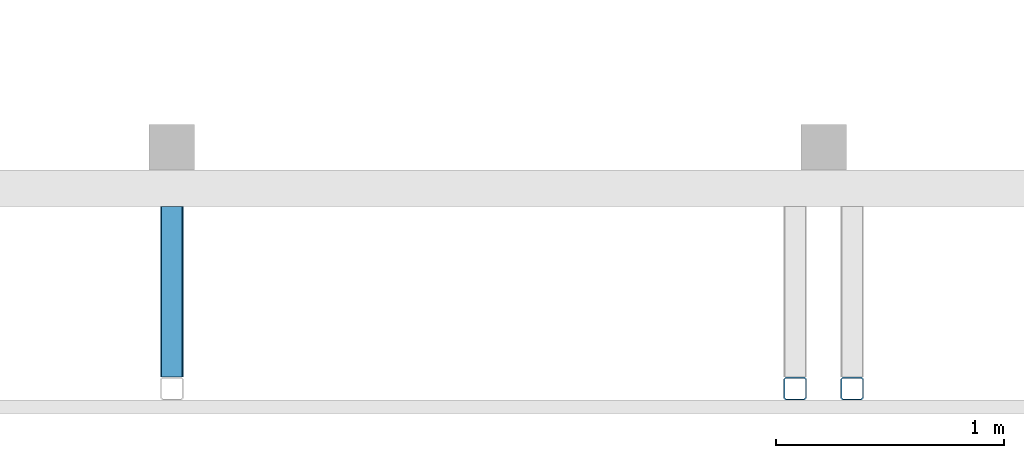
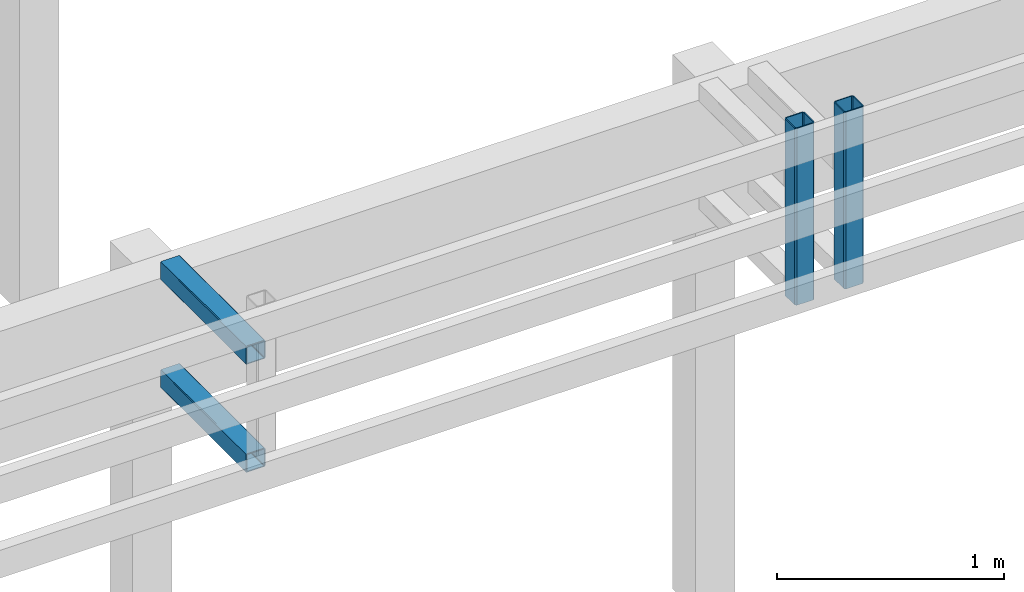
# One storey, part 25 of 42: 4 members.
"""IFC4 building model written with IfcOpenShell, lengths in metres."""

from ifc_helpers import new_model, entity, si_unit, converted_unit, derived_unit, frame, origin, place, context, subcontext, project, spatial, faceted_brep, material, element, save


model = new_model("IFC4")

# Units and contexts
model_context = context("Model", 3, precision=1e-05, world=origin())
plan_context = context("Plan", 2, precision=1e-05, world=origin())
body_context = subcontext(model_context, "Body", "Model", "MODEL_VIEW")
ifc_project = project(units=[si_unit("LENGTHUNIT", "METRE"), si_unit("AREAUNIT", "SQUARE_METRE"), si_unit("VOLUMEUNIT", "CUBIC_METRE"), si_unit("MASSUNIT", "GRAM", prefix="KILO"), converted_unit("PLANEANGLEUNIT", "DEGREE", entity("IfcPlaneAngleMeasure", 0.0174532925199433), si_unit("PLANEANGLEUNIT", "RADIAN"), dimensions=[0, 0, 0, 0, 0, 0, 0]), derived_unit("THERMALTRANSMITTANCEUNIT", [(si_unit("POWERUNIT", "WATT"), 1), (si_unit("THERMODYNAMICTEMPERATUREUNIT", "KELVIN"), -1), (si_unit("LENGTHUNIT", "METRE"), -2)]), derived_unit("VOLUMETRICFLOWRATEUNIT", [(si_unit("LENGTHUNIT", "METRE"), 3), (converted_unit("TIMEUNIT", "hour", entity("IfcTimeMeasure", 3600.0), si_unit("TIMEUNIT", "SECOND"), dimensions=[0, 0, 1, 0, 0, 0, 0]), -1), (si_unit("LENGTHUNIT", "METRE"), -1)])], contexts=[model_context, plan_context])

# Site, building, storey
site_placement = place(None, origin())
site = spatial("IfcSite", under=ifc_project, at=site_placement, Name="Site", CompositionType="ELEMENT")
building_placement = place(site_placement, origin())
building = spatial("IfcBuilding", under=site, at=building_placement, Name="Admin", CompositionType="ELEMENT")
storey_placement = place(building_placement, frame((0.0, 0.0, 6.61)))
storey = spatial("IfcBuildingStorey", under=building, at=storey_placement, Name="02-Etage2", CompositionType="ELEMENT", Elevation=6.61)

# Members
ifc_material_1 = material(Name="S235")
member_1_placement = place(storey_placement, frame((52.3748010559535, 11.0194493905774, 2.28)))
element("IfcMember", 1, at=member_1_placement, inside=storey, material=ifc_material_1, Name="Bandeau R+2", context=body_context, shape_type="Brep", body=[
    faceted_brep([(0.01, 0.095, 0.0), (0.01, 0.095, 0.95), (0.09, 0.095, 0.95), (0.09, 0.095, 0.0), (0.005, 0.09, 0.0), (0.005, 0.09, 0.95), (0.005, 0.01, 0.0), (0.005, 0.01, 0.95), (0.01, 0.005, 0.0), (0.01, 0.005, 0.95), (0.09, 0.005, 0.0), (0.09, 0.005, 0.95), (0.095, 0.01, 0.0), (0.095, 0.01, 0.95), (0.095, 0.09, 0.0), (0.095, 0.09, 0.95), (0.1, 0.0925, 0.0), (0.1, 0.0925, 0.95), (0.0925, 0.1, 0.95), (0.0925, 0.1, 0.0), (0.1, 0.0075, 0.0), (0.1, 0.0075, 0.95), (0.0925, 0.0, 0.0), (0.0925, 0.0, 0.95), (0.0075, 0.0, 0.0), (0.0075, 0.0, 0.95), (0.0, 0.0075, 0.0), (0.0, 0.0075, 0.95), (0.0, 0.0925, 0.0), (0.0, 0.0925, 0.95), (0.0075, 0.1, 0.0), (0.0075, 0.1, 0.95)], [[[0, 1, 2, 3]], [[4, 5, 1, 0]], [[6, 7, 5, 4]], [[8, 9, 7, 6]], [[10, 11, 9, 8]], [[12, 13, 11, 10]], [[14, 15, 13, 12]], [[3, 2, 15, 14]], [[16, 17, 18, 19]], [[20, 21, 17, 16]], [[22, 23, 21, 20]], [[24, 25, 23, 22]], [[26, 27, 25, 24]], [[28, 29, 27, 26]], [[30, 31, 29, 28]], [[19, 18, 31, 30]], [[18, 17, 21, 23, 25, 27, 29, 31], [2, 1, 5, 7, 9, 11, 13, 15]], [[19, 30, 28, 26, 24, 22, 20, 16], [3, 14, 12, 10, 8, 6, 4, 0]]], orient=[[False], [False], [False], [False], [False], [False], [False], [False], [False], [False], [False], [False], [False], [False], [False], [False], [False, False], [False, False]]),
])
ifc_material_2 = material(Name="S235")
member_2_placement = place(storey_placement, frame((52.6248010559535, 11.0194493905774, 2.28)))
element("IfcMember", 2, at=member_2_placement, inside=storey, material=ifc_material_2, Name="Bandeau R+2", context=body_context, shape_type="Brep", body=[
    faceted_brep([(0.01, 0.095, 0.0), (0.01, 0.095, 0.95), (0.09, 0.095, 0.95), (0.09, 0.095, 0.0), (0.005, 0.09, 0.0), (0.005, 0.09, 0.95), (0.005, 0.01, 0.0), (0.005, 0.01, 0.95), (0.01, 0.005, 0.0), (0.01, 0.005, 0.95), (0.09, 0.005, 0.0), (0.09, 0.005, 0.95), (0.095, 0.01, 0.0), (0.095, 0.01, 0.95), (0.095, 0.09, 0.0), (0.095, 0.09, 0.95), (0.1, 0.0925, 0.0), (0.1, 0.0925, 0.95), (0.0925, 0.1, 0.95), (0.0925, 0.1, 0.0), (0.1, 0.0075, 0.0), (0.1, 0.0075, 0.95), (0.0925, 0.0, 0.0), (0.0925, 0.0, 0.95), (0.0075, 0.0, 0.0), (0.0075, 0.0, 0.95), (0.0, 0.0075, 0.0), (0.0, 0.0075, 0.95), (0.0, 0.0925, 0.0), (0.0, 0.0925, 0.95), (0.0075, 0.1, 0.0), (0.0075, 0.1, 0.95)], [[[0, 1, 2, 3]], [[4, 5, 1, 0]], [[6, 7, 5, 4]], [[8, 9, 7, 6]], [[10, 11, 9, 8]], [[12, 13, 11, 10]], [[14, 15, 13, 12]], [[3, 2, 15, 14]], [[16, 17, 18, 19]], [[20, 21, 17, 16]], [[22, 23, 21, 20]], [[24, 25, 23, 22]], [[26, 27, 25, 24]], [[28, 29, 27, 26]], [[30, 31, 29, 28]], [[19, 18, 31, 30]], [[18, 17, 21, 23, 25, 27, 29, 31], [2, 1, 5, 7, 9, 11, 13, 15]], [[19, 30, 28, 26, 24, 22, 20, 16], [3, 14, 12, 10, 8, 6, 4, 0]]], orient=[[False], [False], [False], [False], [False], [False], [False], [False], [False], [False], [False], [False], [False], [False], [False], [False], [False, False], [False, False]]),
])
ifc_material_3 = material(Name="S235")
member_3_placement = place(storey_placement, frame((49.6398010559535, 11.1194493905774, 2.86)))
element("IfcMember", 3, at=member_3_placement, inside=storey, material=ifc_material_3, Name="Bandeau R+2", context=body_context, shape_type="Brep", body=[
    faceted_brep([(0.0950000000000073, 0.0, 0.09), (0.0950000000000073, 0.0, 0.01), (0.0950000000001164, 0.74999999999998, 0.01), (0.0950000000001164, 0.74999999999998, 0.09), (0.0949240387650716, 0.0, 0.0908682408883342), (0.0949240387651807, 0.74999999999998, 0.0908682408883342), (0.0946984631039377, 0.0, 0.0917101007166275), (0.0946984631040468, 0.74999999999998, 0.0917101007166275), (0.0943301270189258, 0.0, 0.0925), (0.094330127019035, 0.74999999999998, 0.0925), (0.0938302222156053, 0.0, 0.0932139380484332), (0.0938302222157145, 0.74999999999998, 0.0932139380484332), (0.0932139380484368, 1.81898940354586e-15, 0.0938302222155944), (0.093213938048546, 0.749999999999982, 0.0938302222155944), (0.0925000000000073, 1.81898940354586e-15, 0.0943301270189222), (0.0925000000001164, 0.749999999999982, 0.0943301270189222), (0.0917101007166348, 1.81898940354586e-15, 0.0946984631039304), (0.0917101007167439, 0.749999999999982, 0.0946984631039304), (0.0908682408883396, 1.81898940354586e-15, 0.0949240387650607), (0.0908682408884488, 0.749999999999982, 0.0949240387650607), (0.0900000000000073, 1.81898940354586e-15, 0.095), (0.0900000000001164, 0.749999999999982, 0.095), (0.0100000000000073, 1.2732925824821e-14, 0.095), (0.0100000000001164, 0.749999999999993, 0.095), (0.00913175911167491, 1.2732925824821e-14, 0.0949240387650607), (0.00913175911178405, 0.749999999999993, 0.0949240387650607), (0.00828989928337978, 1.2732925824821e-14, 0.0946984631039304), (0.00828989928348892, 0.749999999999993, 0.0946984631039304), (0.00750000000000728, 1.2732925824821e-14, 0.0943301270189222), (0.00750000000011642, 0.749999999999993, 0.0943301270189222), (0.00678606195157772, 1.2732925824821e-14, 0.0938302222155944), (0.00678606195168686, 0.749999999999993, 0.0938302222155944), (0.00616977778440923, 1.45519152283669e-14, 0.0932139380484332), (0.00616977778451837, 0.749999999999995, 0.0932139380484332), (0.0056698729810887, 1.45519152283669e-14, 0.0925), (0.00566987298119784, 0.749999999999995, 0.0925), (0.00530153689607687, 1.45519152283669e-14, 0.0917101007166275), (0.00530153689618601, 0.749999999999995, 0.0917101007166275), (0.00507596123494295, 1.45519152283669e-14, 0.0908682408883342), (0.00507596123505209, 0.749999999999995, 0.0908682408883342), (0.00500000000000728, 1.45519152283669e-14, 0.09), (0.00500000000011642, 0.749999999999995, 0.09), (0.00500000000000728, 1.45519152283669e-14, 0.01), (0.00500000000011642, 0.749999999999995, 0.01), (0.00507596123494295, 1.45519152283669e-14, 0.00913175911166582), (0.00507596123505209, 0.749999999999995, 0.00913175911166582), (0.00530153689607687, 1.45519152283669e-14, 0.00828989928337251), (0.00530153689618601, 0.749999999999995, 0.00828989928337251), (0.0056698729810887, 1.45519152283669e-14, 0.0075), (0.00566987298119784, 0.749999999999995, 0.0075), (0.00616977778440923, 1.45519152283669e-14, 0.00678606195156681), (0.00616977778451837, 0.749999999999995, 0.00678606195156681), (0.00678606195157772, 1.2732925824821e-14, 0.0061697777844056), (0.00678606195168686, 0.749999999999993, 0.0061697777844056), (0.00750000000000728, 1.2732925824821e-14, 0.00566987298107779), (0.00750000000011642, 0.749999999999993, 0.00566987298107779), (0.00828989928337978, 1.2732925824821e-14, 0.00530153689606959), (0.00828989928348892, 0.749999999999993, 0.00530153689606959), (0.00913175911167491, 1.2732925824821e-14, 0.00507596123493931), (0.00913175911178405, 0.749999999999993, 0.00507596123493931), (0.0100000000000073, 1.2732925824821e-14, 0.005), (0.0100000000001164, 0.749999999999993, 0.005), (0.0900000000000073, 1.81898940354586e-15, 0.005), (0.0900000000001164, 0.749999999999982, 0.005), (0.0908682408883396, 1.81898940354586e-15, 0.00507596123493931), (0.0908682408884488, 0.749999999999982, 0.00507596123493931), (0.0917101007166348, 1.81898940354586e-15, 0.00530153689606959), (0.0917101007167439, 0.749999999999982, 0.00530153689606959), (0.0925000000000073, 1.81898940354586e-15, 0.00566987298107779), (0.0925000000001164, 0.749999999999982, 0.00566987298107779), (0.0932139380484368, 1.81898940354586e-15, 0.0061697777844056), (0.093213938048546, 0.749999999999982, 0.0061697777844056), (0.0938302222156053, 0.0, 0.00678606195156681), (0.0938302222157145, 0.74999999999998, 0.00678606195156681), (0.0943301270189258, 0.0, 0.0075), (0.094330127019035, 0.74999999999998, 0.0075), (0.0946984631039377, 0.0, 0.00828989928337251), (0.0946984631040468, 0.74999999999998, 0.00828989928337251), (0.0949240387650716, 0.0, 0.00913175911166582), (0.0949240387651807, 0.74999999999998, 0.00913175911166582), (0.00750000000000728, 1.2732925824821e-14, 0.1), (0.00619763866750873, 1.45519152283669e-14, 0.099886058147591), (0.00619763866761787, 0.749999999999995, 0.099886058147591), (0.00750000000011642, 0.749999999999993, 0.1), (0.0925000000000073, 1.81898940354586e-15, 0.1), (0.0925000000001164, 0.749999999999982, 0.1), (0.0938023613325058, 0.0, 0.099886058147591), (0.093802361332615, 0.74999999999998, 0.099886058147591), (0.0950651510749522, 0.0, 0.0995476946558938), (0.0950651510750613, 0.74999999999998, 0.0995476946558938), (0.0962500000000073, 0.0, 0.0989951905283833), (0.0962500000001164, 0.74999999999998, 0.0989951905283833), (0.0973209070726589, 0.0, 0.0982453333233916), (0.097320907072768, 0.74999999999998, 0.0982453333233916), (0.0982453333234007, 0.0, 0.0973209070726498), (0.0982453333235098, 0.74999999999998, 0.0973209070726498), (0.0989951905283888, 0.0, 0.09625), (0.0989951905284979, 0.74999999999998, 0.09625), (0.0995476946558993, 0.0, 0.0950651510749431), (0.0995476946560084, 0.74999999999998, 0.0950651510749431), (0.0998860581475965, 0.0, 0.0938023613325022), (0.0998860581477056, 0.74999999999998, 0.0938023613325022), (0.100000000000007, 0.0, 0.0925), (0.100000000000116, 0.74999999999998, 0.0925), (0.0998860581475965, 0.0, 0.00619763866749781), (0.100000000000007, 0.0, 0.0075), (0.100000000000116, 0.74999999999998, 0.0075), (0.0998860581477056, 0.74999999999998, 0.00619763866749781), (0.0995476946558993, 0.0, 0.00493484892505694), (0.0995476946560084, 0.74999999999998, 0.00493484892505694), (0.0989951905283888, 0.0, 0.00375), (0.0989951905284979, 0.74999999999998, 0.00375), (0.0982453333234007, 0.0, 0.00267909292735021), (0.0982453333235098, 0.74999999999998, 0.00267909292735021), (0.0973209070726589, 0.0, 0.00175466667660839), (0.097320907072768, 0.74999999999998, 0.00175466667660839), (0.0962500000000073, 0.0, 0.00100480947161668), (0.0962500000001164, 0.74999999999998, 0.00100480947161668), (0.0950651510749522, 0.0, 0.000452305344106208), (0.0950651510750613, 0.74999999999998, 0.000452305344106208), (0.0938023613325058, 0.0, 0.000113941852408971), (0.093802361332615, 0.74999999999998, 0.000113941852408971), (0.0925000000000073, 1.81898940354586e-15, 0.0), (0.0925000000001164, 0.749999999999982, 0.0), (0.00750000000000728, 1.2732925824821e-14, 0.0), (0.00750000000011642, 0.749999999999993, 0.0), (0.00619763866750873, 1.45519152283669e-14, 0.000113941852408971), (0.00619763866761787, 0.749999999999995, 0.000113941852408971), (0.0049348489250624, 1.45519152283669e-14, 0.000452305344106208), (0.00493484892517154, 0.749999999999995, 0.000452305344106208), (0.00375000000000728, 1.45519152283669e-14, 0.00100480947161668), (0.00375000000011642, 0.749999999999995, 0.00100480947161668), (0.00267909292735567, 1.45519152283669e-14, 0.00175466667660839), (0.00267909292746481, 0.749999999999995, 0.00175466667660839), (0.00175466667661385, 1.45519152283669e-14, 0.00267909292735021), (0.00175466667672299, 0.749999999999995, 0.00267909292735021), (0.00100480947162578, 1.45519152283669e-14, 0.00375), (0.00100480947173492, 0.749999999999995, 0.00375), (0.000452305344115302, 1.45519152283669e-14, 0.00493484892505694), (0.000452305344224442, 0.749999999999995, 0.00493484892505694), (0.000113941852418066, 1.45519152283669e-14, 0.00619763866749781), (0.000113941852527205, 0.749999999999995, 0.00619763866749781), (7.27595761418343e-15, 0.0, 0.0075), (1.16415321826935e-13, 0.749999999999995, 0.0075), (0.000113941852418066, 1.45519152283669e-14, 0.0938023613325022), (7.27595761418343e-15, 0.0, 0.0925), (1.16415321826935e-13, 0.749999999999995, 0.0925), (0.000113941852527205, 0.749999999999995, 0.0938023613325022), (0.000452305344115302, 1.45519152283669e-14, 0.0950651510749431), (0.000452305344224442, 0.749999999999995, 0.0950651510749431), (0.00100480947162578, 1.45519152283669e-14, 0.09625), (0.00100480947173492, 0.749999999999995, 0.09625), (0.00175466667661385, 1.45519152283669e-14, 0.0973209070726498), (0.00175466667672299, 0.749999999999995, 0.0973209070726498), (0.00267909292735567, 1.45519152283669e-14, 0.0982453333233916), (0.00267909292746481, 0.749999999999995, 0.0982453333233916), (0.00375000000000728, 1.45519152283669e-14, 0.0989951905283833), (0.00375000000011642, 0.749999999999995, 0.0989951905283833), (0.0049348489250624, 1.45519152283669e-14, 0.0995476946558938), (0.00493484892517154, 0.749999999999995, 0.0995476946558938)], [[[0, 1, 2, 3]], [[4, 0, 3, 5]], [[6, 4, 5, 7]], [[8, 6, 7, 9]], [[10, 8, 9, 11]], [[12, 10, 11, 13]], [[14, 12, 13, 15]], [[16, 14, 15, 17]], [[18, 16, 17, 19]], [[20, 18, 19, 21]], [[22, 20, 21, 23]], [[24, 22, 23, 25]], [[26, 24, 25, 27]], [[28, 26, 27, 29]], [[30, 28, 29, 31]], [[32, 30, 31, 33]], [[34, 32, 33, 35]], [[36, 34, 35, 37]], [[38, 36, 37, 39]], [[40, 38, 39, 41]], [[42, 40, 41, 43]], [[44, 42, 43, 45]], [[46, 44, 45, 47]], [[48, 46, 47, 49]], [[50, 48, 49, 51]], [[52, 50, 51, 53]], [[54, 52, 53, 55]], [[56, 54, 55, 57]], [[58, 56, 57, 59]], [[60, 58, 59, 61]], [[62, 60, 61, 63]], [[64, 62, 63, 65]], [[66, 64, 65, 67]], [[68, 66, 67, 69]], [[70, 68, 69, 71]], [[72, 70, 71, 73]], [[74, 72, 73, 75]], [[76, 74, 75, 77]], [[78, 76, 77, 79]], [[1, 78, 79, 2]], [[80, 81, 82, 83]], [[84, 80, 83, 85]], [[86, 84, 85, 87]], [[88, 86, 87, 89]], [[90, 88, 89, 91]], [[92, 90, 91, 93]], [[94, 92, 93, 95]], [[96, 94, 95, 97]], [[98, 96, 97, 99]], [[100, 98, 99, 101]], [[102, 100, 101, 103]], [[104, 105, 106, 107]], [[108, 104, 107, 109]], [[110, 108, 109, 111]], [[112, 110, 111, 113]], [[114, 112, 113, 115]], [[116, 114, 115, 117]], [[118, 116, 117, 119]], [[120, 118, 119, 121]], [[122, 120, 121, 123]], [[124, 122, 123, 125]], [[126, 124, 125, 127]], [[128, 126, 127, 129]], [[130, 128, 129, 131]], [[132, 130, 131, 133]], [[134, 132, 133, 135]], [[136, 134, 135, 137]], [[138, 136, 137, 139]], [[140, 138, 139, 141]], [[142, 140, 141, 143]], [[144, 145, 146, 147]], [[148, 144, 147, 149]], [[150, 148, 149, 151]], [[152, 150, 151, 153]], [[154, 152, 153, 155]], [[156, 154, 155, 157]], [[158, 156, 157, 159]], [[81, 158, 159, 82]], [[146, 143, 141, 139, 137, 135, 133, 131, 129, 127, 125, 123, 121, 119, 117, 115, 113, 111, 109, 107, 106, 103, 101, 99, 97, 95, 93, 91, 89, 87, 85, 83, 82, 159, 157, 155, 153, 151, 149, 147], [2, 79, 77, 75, 73, 71, 69, 67, 65, 63, 61, 59, 57, 55, 53, 51, 49, 47, 45, 43, 41, 39, 37, 35, 33, 31, 29, 27, 25, 23, 21, 19, 17, 15, 13, 11, 9, 7, 5, 3]], [[103, 106, 105, 102]], [[102, 105, 104, 108, 110, 112, 114, 116, 118, 120, 122, 124, 126, 128, 130, 132, 134, 136, 138, 140, 142, 145, 144, 148, 150, 152, 154, 156, 158, 81, 80, 84, 86, 88, 90, 92, 94, 96, 98, 100], [1, 0, 4, 6, 8, 10, 12, 14, 16, 18, 20, 22, 24, 26, 28, 30, 32, 34, 36, 38, 40, 42, 44, 46, 48, 50, 52, 54, 56, 58, 60, 62, 64, 66, 68, 70, 72, 74, 76, 78]], [[145, 142, 143, 146]]], orient=[[False], [False], [False], [False], [False], [False], [False], [False], [False], [False], [False], [False], [False], [False], [False], [False], [False], [False], [False], [False], [False], [False], [False], [False], [False], [False], [False], [False], [False], [False], [False], [False], [False], [False], [False], [False], [False], [False], [False], [False], [False], [False], [False], [False], [False], [False], [False], [False], [False], [False], [False], [False], [False], [False], [False], [False], [False], [False], [False], [False], [False], [False], [False], [False], [False], [False], [False], [False], [False], [False], [False], [False], [False], [False], [False], [False], [False], [False], [False, False], [False], [False, False], [False]]),
])
ifc_material_4 = material(Name="S235")
member_4_placement = place(storey_placement, frame((49.6398010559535, 11.1194493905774, 2.28)))
element("IfcMember", 4, at=member_4_placement, inside=storey, material=ifc_material_4, Name="Bandeau R+2", context=body_context, shape_type="Brep", body=[
    faceted_brep([(0.0950000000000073, 0.0, 0.09), (0.0950000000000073, 0.0, 0.01), (0.0950000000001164, 0.749999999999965, 0.01), (0.0950000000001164, 0.749999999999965, 0.09), (0.0949240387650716, 0.0, 0.0908682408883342), (0.0949240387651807, 0.749999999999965, 0.0908682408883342), (0.0946984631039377, 0.0, 0.0917101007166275), (0.0946984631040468, 0.749999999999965, 0.0917101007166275), (0.0943301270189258, 0.0, 0.0925), (0.094330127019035, 0.749999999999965, 0.0925), (0.0938302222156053, 0.0, 0.0932139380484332), (0.0938302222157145, 0.749999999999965, 0.0932139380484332), (0.0932139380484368, 1.81898940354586e-15, 0.0938302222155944), (0.093213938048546, 0.749999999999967, 0.0938302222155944), (0.0925000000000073, 1.81898940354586e-15, 0.0943301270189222), (0.0925000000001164, 0.749999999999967, 0.0943301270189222), (0.0917101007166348, 1.81898940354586e-15, 0.0946984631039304), (0.0917101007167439, 0.749999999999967, 0.0946984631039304), (0.0908682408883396, 1.81898940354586e-15, 0.0949240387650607), (0.0908682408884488, 0.749999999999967, 0.0949240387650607), (0.0900000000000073, 1.81898940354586e-15, 0.095), (0.0900000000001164, 0.749999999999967, 0.095), (0.0100000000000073, 1.2732925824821e-14, 0.095), (0.0100000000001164, 0.749999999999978, 0.095), (0.00913175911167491, 1.2732925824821e-14, 0.0949240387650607), (0.00913175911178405, 0.749999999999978, 0.0949240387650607), (0.00828989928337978, 1.2732925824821e-14, 0.0946984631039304), (0.00828989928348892, 0.749999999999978, 0.0946984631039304), (0.00750000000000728, 1.2732925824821e-14, 0.0943301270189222), (0.00750000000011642, 0.749999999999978, 0.0943301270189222), (0.00678606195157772, 1.2732925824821e-14, 0.0938302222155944), (0.00678606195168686, 0.749999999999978, 0.0938302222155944), (0.00616977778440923, 1.45519152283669e-14, 0.0932139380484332), (0.00616977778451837, 0.74999999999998, 0.0932139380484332), (0.0056698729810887, 1.45519152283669e-14, 0.0925), (0.00566987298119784, 0.74999999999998, 0.0925), (0.00530153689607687, 1.45519152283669e-14, 0.0917101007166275), (0.00530153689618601, 0.74999999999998, 0.0917101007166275), (0.00507596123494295, 1.45519152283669e-14, 0.0908682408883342), (0.00507596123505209, 0.74999999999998, 0.0908682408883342), (0.00500000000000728, 1.45519152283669e-14, 0.09), (0.00500000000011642, 0.74999999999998, 0.09), (0.00500000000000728, 1.45519152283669e-14, 0.01), (0.00500000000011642, 0.74999999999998, 0.01), (0.00507596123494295, 1.45519152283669e-14, 0.00913175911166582), (0.00507596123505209, 0.74999999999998, 0.00913175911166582), (0.00530153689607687, 1.45519152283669e-14, 0.00828989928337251), (0.00530153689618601, 0.74999999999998, 0.00828989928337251), (0.0056698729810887, 1.45519152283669e-14, 0.0075), (0.00566987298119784, 0.74999999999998, 0.0075), (0.00616977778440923, 1.45519152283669e-14, 0.00678606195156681), (0.00616977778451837, 0.74999999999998, 0.00678606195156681), (0.00678606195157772, 1.2732925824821e-14, 0.0061697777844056), (0.00678606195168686, 0.749999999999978, 0.0061697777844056), (0.00750000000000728, 1.2732925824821e-14, 0.00566987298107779), (0.00750000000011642, 0.749999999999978, 0.00566987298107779), (0.00828989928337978, 1.2732925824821e-14, 0.00530153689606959), (0.00828989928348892, 0.749999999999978, 0.00530153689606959), (0.00913175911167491, 1.2732925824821e-14, 0.00507596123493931), (0.00913175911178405, 0.749999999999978, 0.00507596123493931), (0.0100000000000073, 1.2732925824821e-14, 0.005), (0.0100000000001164, 0.749999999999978, 0.005), (0.0900000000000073, 1.81898940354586e-15, 0.005), (0.0900000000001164, 0.749999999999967, 0.005), (0.0908682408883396, 1.81898940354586e-15, 0.00507596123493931), (0.0908682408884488, 0.749999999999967, 0.00507596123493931), (0.0917101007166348, 1.81898940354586e-15, 0.00530153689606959), (0.0917101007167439, 0.749999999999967, 0.00530153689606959), (0.0925000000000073, 1.81898940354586e-15, 0.00566987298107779), (0.0925000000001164, 0.749999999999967, 0.00566987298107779), (0.0932139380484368, 1.81898940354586e-15, 0.0061697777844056), (0.093213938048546, 0.749999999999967, 0.0061697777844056), (0.0938302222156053, 0.0, 0.00678606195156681), (0.0938302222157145, 0.749999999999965, 0.00678606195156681), (0.0943301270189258, 0.0, 0.0075), (0.094330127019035, 0.749999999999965, 0.0075), (0.0946984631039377, 0.0, 0.00828989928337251), (0.0946984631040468, 0.749999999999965, 0.00828989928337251), (0.0949240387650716, 0.0, 0.00913175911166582), (0.0949240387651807, 0.749999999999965, 0.00913175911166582), (0.00750000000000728, 1.2732925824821e-14, 0.1), (0.00619763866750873, 1.45519152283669e-14, 0.099886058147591), (0.00619763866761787, 0.74999999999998, 0.099886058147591), (0.00750000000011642, 0.749999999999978, 0.1), (0.0925000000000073, 1.81898940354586e-15, 0.1), (0.0925000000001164, 0.749999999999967, 0.1), (0.0938023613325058, 0.0, 0.099886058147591), (0.093802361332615, 0.749999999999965, 0.099886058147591), (0.0950651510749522, 0.0, 0.0995476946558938), (0.0950651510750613, 0.749999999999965, 0.0995476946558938), (0.0962500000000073, 0.0, 0.0989951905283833), (0.0962500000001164, 0.749999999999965, 0.0989951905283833), (0.0973209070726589, 0.0, 0.0982453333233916), (0.097320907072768, 0.749999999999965, 0.0982453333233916), (0.0982453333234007, 0.0, 0.0973209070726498), (0.0982453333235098, 0.749999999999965, 0.0973209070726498), (0.0989951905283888, 0.0, 0.09625), (0.0989951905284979, 0.749999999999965, 0.09625), (0.0995476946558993, 0.0, 0.0950651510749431), (0.0995476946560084, 0.749999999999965, 0.0950651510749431), (0.0998860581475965, 0.0, 0.0938023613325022), (0.0998860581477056, 0.749999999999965, 0.0938023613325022), (0.100000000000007, 0.0, 0.0925), (0.100000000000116, 0.749999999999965, 0.0925), (0.0998860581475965, 0.0, 0.00619763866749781), (0.100000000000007, 0.0, 0.0075), (0.100000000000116, 0.749999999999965, 0.0075), (0.0998860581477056, 0.749999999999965, 0.00619763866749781), (0.0995476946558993, 0.0, 0.00493484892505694), (0.0995476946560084, 0.749999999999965, 0.00493484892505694), (0.0989951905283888, 0.0, 0.00375), (0.0989951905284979, 0.749999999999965, 0.00375), (0.0982453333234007, 0.0, 0.00267909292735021), (0.0982453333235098, 0.749999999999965, 0.00267909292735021), (0.0973209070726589, 0.0, 0.00175466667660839), (0.097320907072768, 0.749999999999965, 0.00175466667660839), (0.0962500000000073, 0.0, 0.00100480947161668), (0.0962500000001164, 0.749999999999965, 0.00100480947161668), (0.0950651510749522, 0.0, 0.000452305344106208), (0.0950651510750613, 0.749999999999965, 0.000452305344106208), (0.0938023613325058, 0.0, 0.000113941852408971), (0.093802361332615, 0.749999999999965, 0.000113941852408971), (0.0925000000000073, 1.81898940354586e-15, 0.0), (0.0925000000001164, 0.749999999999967, 0.0), (0.00750000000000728, 1.2732925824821e-14, 0.0), (0.00750000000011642, 0.749999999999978, 0.0), (0.00619763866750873, 1.45519152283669e-14, 0.000113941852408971), (0.00619763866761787, 0.74999999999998, 0.000113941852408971), (0.0049348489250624, 1.45519152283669e-14, 0.000452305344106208), (0.00493484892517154, 0.74999999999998, 0.000452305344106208), (0.00375000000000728, 1.45519152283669e-14, 0.00100480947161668), (0.00375000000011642, 0.74999999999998, 0.00100480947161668), (0.00267909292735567, 1.45519152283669e-14, 0.00175466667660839), (0.00267909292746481, 0.74999999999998, 0.00175466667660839), (0.00175466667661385, 1.45519152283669e-14, 0.00267909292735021), (0.00175466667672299, 0.74999999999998, 0.00267909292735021), (0.00100480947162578, 1.45519152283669e-14, 0.00375), (0.00100480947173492, 0.74999999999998, 0.00375), (0.000452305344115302, 1.45519152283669e-14, 0.00493484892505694), (0.000452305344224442, 0.74999999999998, 0.00493484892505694), (0.000113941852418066, 1.45519152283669e-14, 0.00619763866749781), (0.000113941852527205, 0.74999999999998, 0.00619763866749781), (7.27595761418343e-15, 0.0, 0.0075), (1.16415321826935e-13, 0.74999999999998, 0.0075), (0.000113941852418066, 1.45519152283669e-14, 0.0938023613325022), (7.27595761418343e-15, 0.0, 0.0925), (1.16415321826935e-13, 0.74999999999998, 0.0925), (0.000113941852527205, 0.74999999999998, 0.0938023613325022), (0.000452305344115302, 1.45519152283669e-14, 0.0950651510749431), (0.000452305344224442, 0.74999999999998, 0.0950651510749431), (0.00100480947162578, 1.45519152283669e-14, 0.09625), (0.00100480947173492, 0.74999999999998, 0.09625), (0.00175466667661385, 1.45519152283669e-14, 0.0973209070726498), (0.00175466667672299, 0.74999999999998, 0.0973209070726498), (0.00267909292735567, 1.45519152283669e-14, 0.0982453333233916), (0.00267909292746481, 0.74999999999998, 0.0982453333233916), (0.00375000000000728, 1.45519152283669e-14, 0.0989951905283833), (0.00375000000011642, 0.74999999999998, 0.0989951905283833), (0.0049348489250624, 1.45519152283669e-14, 0.0995476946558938), (0.00493484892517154, 0.74999999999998, 0.0995476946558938)], [[[0, 1, 2, 3]], [[4, 0, 3, 5]], [[6, 4, 5, 7]], [[8, 6, 7, 9]], [[10, 8, 9, 11]], [[12, 10, 11, 13]], [[14, 12, 13, 15]], [[16, 14, 15, 17]], [[18, 16, 17, 19]], [[20, 18, 19, 21]], [[22, 20, 21, 23]], [[24, 22, 23, 25]], [[26, 24, 25, 27]], [[28, 26, 27, 29]], [[30, 28, 29, 31]], [[32, 30, 31, 33]], [[34, 32, 33, 35]], [[36, 34, 35, 37]], [[38, 36, 37, 39]], [[40, 38, 39, 41]], [[42, 40, 41, 43]], [[44, 42, 43, 45]], [[46, 44, 45, 47]], [[48, 46, 47, 49]], [[50, 48, 49, 51]], [[52, 50, 51, 53]], [[54, 52, 53, 55]], [[56, 54, 55, 57]], [[58, 56, 57, 59]], [[60, 58, 59, 61]], [[62, 60, 61, 63]], [[64, 62, 63, 65]], [[66, 64, 65, 67]], [[68, 66, 67, 69]], [[70, 68, 69, 71]], [[72, 70, 71, 73]], [[74, 72, 73, 75]], [[76, 74, 75, 77]], [[78, 76, 77, 79]], [[1, 78, 79, 2]], [[80, 81, 82, 83]], [[84, 80, 83, 85]], [[86, 84, 85, 87]], [[88, 86, 87, 89]], [[90, 88, 89, 91]], [[92, 90, 91, 93]], [[94, 92, 93, 95]], [[96, 94, 95, 97]], [[98, 96, 97, 99]], [[100, 98, 99, 101]], [[102, 100, 101, 103]], [[104, 105, 106, 107]], [[108, 104, 107, 109]], [[110, 108, 109, 111]], [[112, 110, 111, 113]], [[114, 112, 113, 115]], [[116, 114, 115, 117]], [[118, 116, 117, 119]], [[120, 118, 119, 121]], [[122, 120, 121, 123]], [[124, 122, 123, 125]], [[126, 124, 125, 127]], [[128, 126, 127, 129]], [[130, 128, 129, 131]], [[132, 130, 131, 133]], [[134, 132, 133, 135]], [[136, 134, 135, 137]], [[138, 136, 137, 139]], [[140, 138, 139, 141]], [[142, 140, 141, 143]], [[144, 145, 146, 147]], [[148, 144, 147, 149]], [[150, 148, 149, 151]], [[152, 150, 151, 153]], [[154, 152, 153, 155]], [[156, 154, 155, 157]], [[158, 156, 157, 159]], [[81, 158, 159, 82]], [[146, 143, 141, 139, 137, 135, 133, 131, 129, 127, 125, 123, 121, 119, 117, 115, 113, 111, 109, 107, 106, 103, 101, 99, 97, 95, 93, 91, 89, 87, 85, 83, 82, 159, 157, 155, 153, 151, 149, 147], [2, 79, 77, 75, 73, 71, 69, 67, 65, 63, 61, 59, 57, 55, 53, 51, 49, 47, 45, 43, 41, 39, 37, 35, 33, 31, 29, 27, 25, 23, 21, 19, 17, 15, 13, 11, 9, 7, 5, 3]], [[103, 106, 105, 102]], [[102, 105, 104, 108, 110, 112, 114, 116, 118, 120, 122, 124, 126, 128, 130, 132, 134, 136, 138, 140, 142, 145, 144, 148, 150, 152, 154, 156, 158, 81, 80, 84, 86, 88, 90, 92, 94, 96, 98, 100], [1, 0, 4, 6, 8, 10, 12, 14, 16, 18, 20, 22, 24, 26, 28, 30, 32, 34, 36, 38, 40, 42, 44, 46, 48, 50, 52, 54, 56, 58, 60, 62, 64, 66, 68, 70, 72, 74, 76, 78]], [[145, 142, 143, 146]]], orient=[[False], [False], [False], [False], [False], [False], [False], [False], [False], [False], [False], [False], [False], [False], [False], [False], [False], [False], [False], [False], [False], [False], [False], [False], [False], [False], [False], [False], [False], [False], [False], [False], [False], [False], [False], [False], [False], [False], [False], [False], [False], [False], [False], [False], [False], [False], [False], [False], [False], [False], [False], [False], [False], [False], [False], [False], [False], [False], [False], [False], [False], [False], [False], [False], [False], [False], [False], [False], [False], [False], [False], [False], [False], [False], [False], [False], [False], [False], [False, False], [False], [False, False], [False]]),
])

save(model, "model.ifc")
